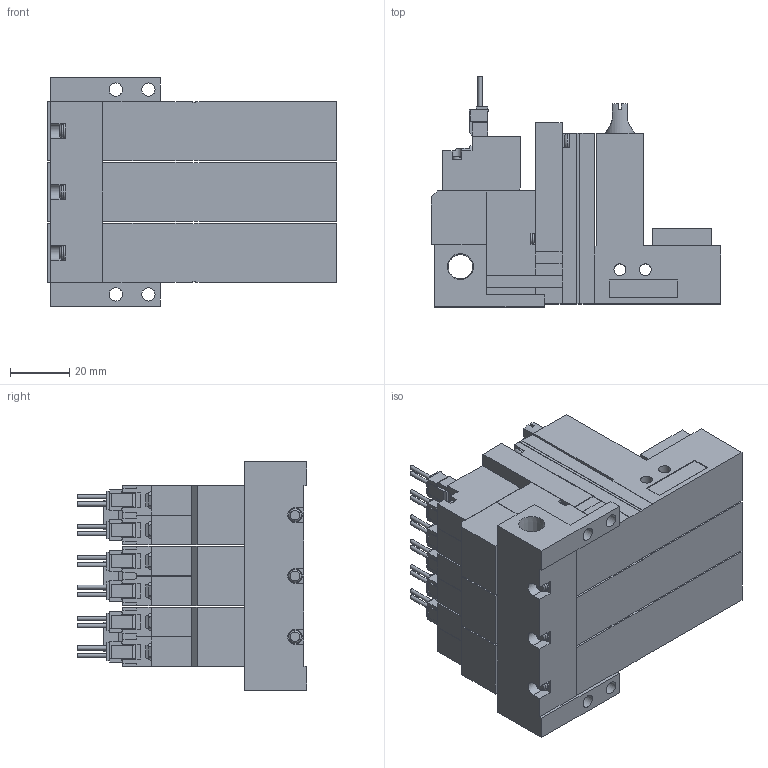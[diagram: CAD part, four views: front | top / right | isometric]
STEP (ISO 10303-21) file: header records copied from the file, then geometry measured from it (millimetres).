
FILE_DESCRIPTION(('STEP AP203'),'1');
FILE_NAME('ZLC5BLR303.stp','2025-02-18T07:22:24',(' '),(' '),'Spatial InterOp 3D',' ',' ');
FILE_SCHEMA(('CONFIG_CONTROL_DESIGN'));
Length unit declared in the file: millimetre
Products named in the file (5): BMC22M※※※※ZLC5BLR303; Solenoid valve B; Pressure sensor ZLC; Unit LC; Base MR30R
Assembly tree (10 placements, depth 2):
  BMC22M※※※※ZLC5BLR303
    Solenoid valve B  x3
    Pressure sensor ZLC  x3
    Unit LC  x3
    Base MR30R
Bounding box: 97.6 x 77.45 x 77 mm (x, y, z)
Volume: 269957.6 mm3; surface area: 72428.9 mm2
Topology: 10 solids, 10 shells, 1095 faces, 2978 edges, 1957 vertices
Faces by surface type: plane 944, cylinder 113, cone 23, torus 15
Full cylindrical faces by diameter (mm): 1.4 x12, 2.5 x3, 3 x12, 3.5 x12, 3.6 x3, 4 x6, 4.134 x3, 4.5 x4, 5.2 x3, 6 x3, 6.6 x3, 8.279 x1
Entity records: 12881 total; most frequent: CARTESIAN_POINT 2446, ORIENTED_EDGE 2060, DIRECTION 2024, EDGE_CURVE 1030, LINE 866, VECTOR 866, VERTEX_POINT 710, AXIS2_PLACEMENT_3D 579
